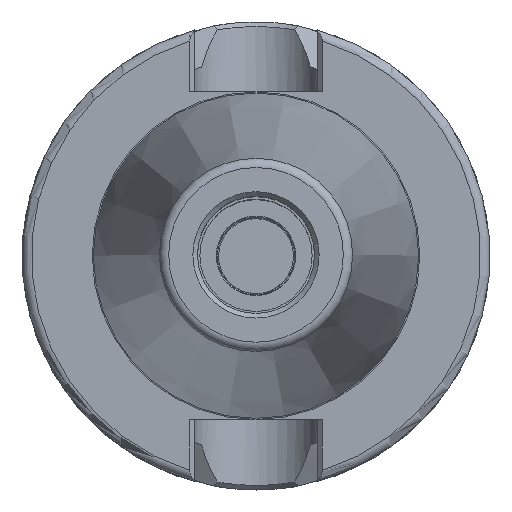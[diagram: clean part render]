
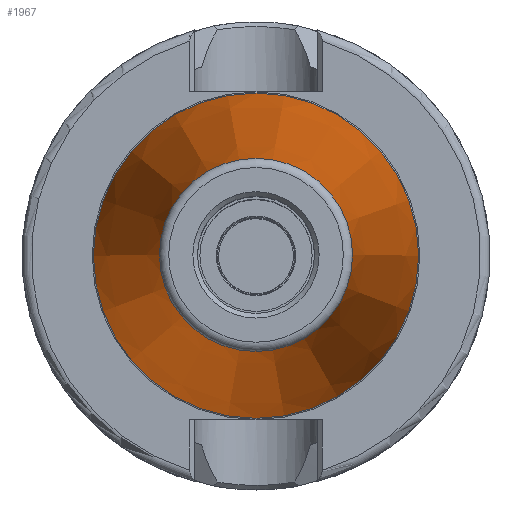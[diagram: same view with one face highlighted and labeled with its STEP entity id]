
A CAD part, top view. The second image highlights one B-rep face of the part: STEP entity #1967.
In plain terms, the highlighted conical face has half-angle 7.931 degrees and reference radius 27.575 mm.
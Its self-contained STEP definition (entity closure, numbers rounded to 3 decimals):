
#61=CONICAL_SURFACE('',#2242,27.575,0.138);
#306=LINE('',#3656,#454);
#454=VECTOR('',#2725,27.575);
#585=FACE_OUTER_BOUND('',#700,.T.);
#700=EDGE_LOOP('',(#1750,#1751,#1752,#1753,#1754,#1755));
#803=CIRCLE('',#2240,20.64);
#804=CIRCLE('',#2241,20.64);
#805=CIRCLE('',#2243,34.75);
#806=CIRCLE('',#2244,34.75);
#987=VERTEX_POINT('',#3649);
#988=VERTEX_POINT('',#3651);
#989=VERTEX_POINT('',#3655);
#990=VERTEX_POINT('',#3657);
#1254=EDGE_CURVE('',#987,#988,#803,.T.);
#1255=EDGE_CURVE('',#988,#987,#804,.T.);
#1256=EDGE_CURVE('',#987,#989,#306,.T.);
#1257=EDGE_CURVE('',#989,#990,#805,.T.);
#1258=EDGE_CURVE('',#990,#989,#806,.T.);
#1750=ORIENTED_EDGE('',*,*,#1255,.F.);
#1751=ORIENTED_EDGE('',*,*,#1254,.F.);
#1752=ORIENTED_EDGE('',*,*,#1256,.T.);
#1753=ORIENTED_EDGE('',*,*,#1257,.T.);
#1754=ORIENTED_EDGE('',*,*,#1258,.T.);
#1755=ORIENTED_EDGE('',*,*,#1256,.F.);
#1967=ADVANCED_FACE('',(#585),#61,.T.);
#2240=AXIS2_PLACEMENT_3D('',#3652,#2719,#2720);
#2241=AXIS2_PLACEMENT_3D('',#3653,#2721,#2722);
#2242=AXIS2_PLACEMENT_3D('',#3654,#2723,#2724);
#2243=AXIS2_PLACEMENT_3D('',#3658,#2726,#2727);
#2244=AXIS2_PLACEMENT_3D('',#3659,#2728,#2729);
#2719=DIRECTION('center_axis',(0.,0.,1.));
#2720=DIRECTION('ref_axis',(-1.,0.,0.));
#2721=DIRECTION('center_axis',(0.,0.,1.));
#2722=DIRECTION('ref_axis',(-1.,0.,0.));
#2723=DIRECTION('center_axis',(0.,0.,-1.));
#2724=DIRECTION('ref_axis',(1.,0.,0.));
#2725=DIRECTION('',(-0.138,0.,-0.99));
#2726=DIRECTION('center_axis',(0.,0.,1.));
#2727=DIRECTION('ref_axis',(1.,0.,0.));
#2728=DIRECTION('center_axis',(0.,0.,1.));
#2729=DIRECTION('ref_axis',(1.,0.,0.));
#3649=CARTESIAN_POINT('',(-20.64,0.,-1.724));
#3651=CARTESIAN_POINT('',(20.64,0.,-1.724));
#3652=CARTESIAN_POINT('Origin',(0.,0.,
-1.724));
#3653=CARTESIAN_POINT('Origin',(0.,0.,
-1.724));
#3654=CARTESIAN_POINT('Origin',(0.,0.,-51.5));
#3655=CARTESIAN_POINT('',(-34.75,0.,-103.));
#3656=CARTESIAN_POINT('',(-27.575,0.,-51.5));
#3657=CARTESIAN_POINT('',(34.75,0.,-103.));
#3658=CARTESIAN_POINT('Origin',(0.,0.,-103.));
#3659=CARTESIAN_POINT('Origin',(0.,0.,-103.));
